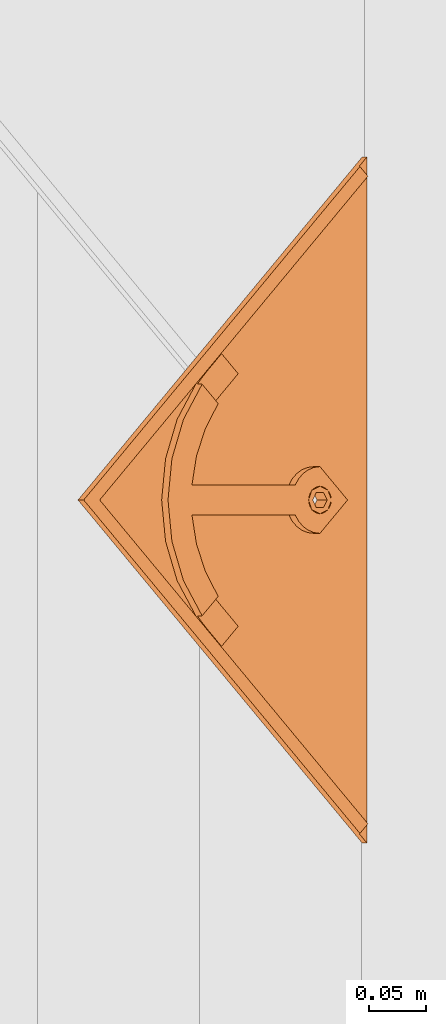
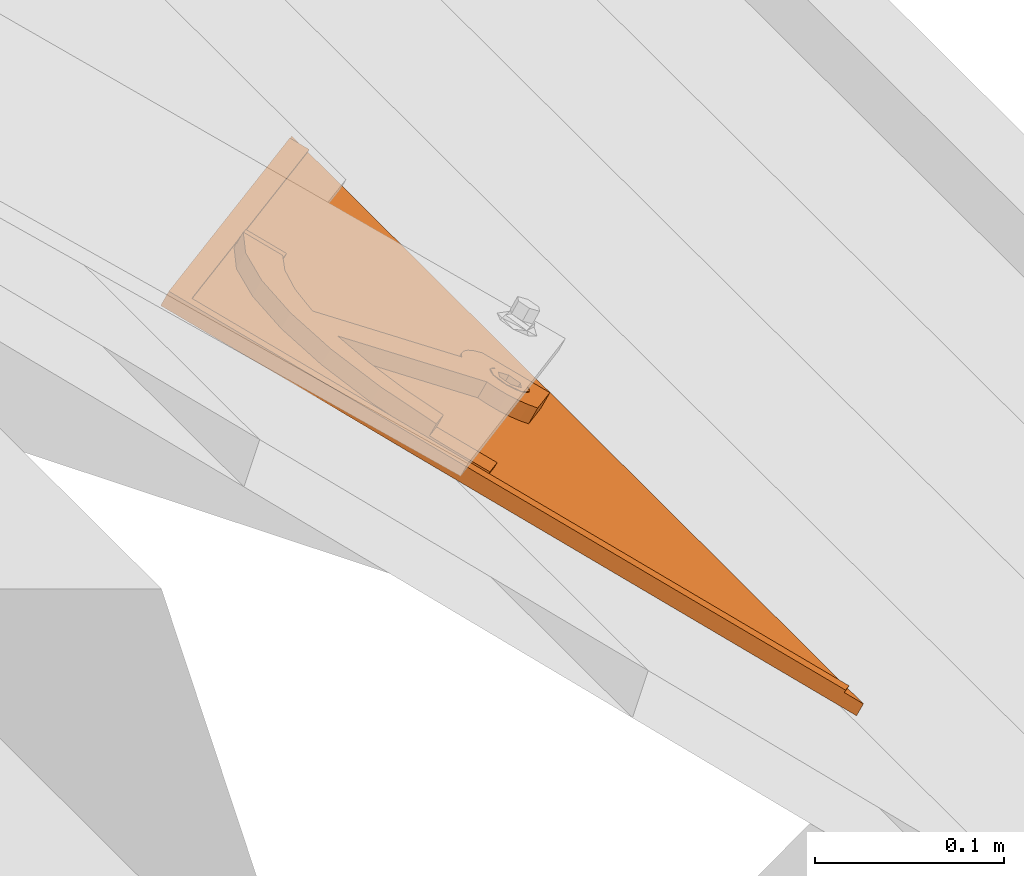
# One storey, part 132 of 151: 1 proxy.
"""IFC2X3 building model written with IfcOpenShell, lengths in millimetres."""

from ifc_helpers import new_model, entity, si_unit, converted_unit, derived_unit, direction, frame, origin, place, context, subcontext, project, spatial, faceted_brep, source, transform, mapped, material, material_list, type_object, type_shapes, element, save


model = new_model("IFC2X3")

# Units and contexts
model_context = context("Model", 3, precision=0.01, world=origin(), true_north=direction((6.12303176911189e-17, 1.0)))
body_context = subcontext(model_context, "Body", "Model", "MODEL_VIEW")
ifc_project = project(units=[si_unit("LENGTHUNIT", "METRE", prefix="MILLI"), si_unit("AREAUNIT", "SQUARE_METRE"), si_unit("VOLUMEUNIT", "CUBIC_METRE"), converted_unit("PLANEANGLEUNIT", "DEGREE", entity("IfcRatioMeasure", 0.0174532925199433), si_unit("PLANEANGLEUNIT", "RADIAN"), dimensions=[0, 0, 0, 0, 0, 0, 0]), si_unit("MASSUNIT", "GRAM", prefix="KILO"), derived_unit("MASSDENSITYUNIT", [(si_unit("MASSUNIT", "GRAM", prefix="KILO"), 1), (si_unit("LENGTHUNIT", "METRE"), -3)]), si_unit("TIMEUNIT", "SECOND"), si_unit("FREQUENCYUNIT", "HERTZ"), si_unit("THERMODYNAMICTEMPERATUREUNIT", "DEGREE_CELSIUS"), derived_unit("THERMALTRANSMITTANCEUNIT", [(si_unit("MASSUNIT", "GRAM", prefix="KILO"), 1), (si_unit("THERMODYNAMICTEMPERATUREUNIT", "KELVIN"), -1), (si_unit("TIMEUNIT", "SECOND"), -3)]), derived_unit("VOLUMETRICFLOWRATEUNIT", [(si_unit("LENGTHUNIT", "METRE"), 3), (si_unit("TIMEUNIT", "SECOND"), -1)]), si_unit("ELECTRICCURRENTUNIT", "AMPERE"), si_unit("ELECTRICVOLTAGEUNIT", "VOLT"), si_unit("POWERUNIT", "WATT"), si_unit("FORCEUNIT", "NEWTON", prefix="KILO"), si_unit("ILLUMINANCEUNIT", "LUX"), si_unit("LUMINOUSFLUXUNIT", "LUMEN"), si_unit("LUMINOUSINTENSITYUNIT", "CANDELA"), derived_unit("USERDEFINED", [(si_unit("MASSUNIT", "GRAM", prefix="KILO"), -1), (si_unit("LENGTHUNIT", "METRE"), -2), (si_unit("TIMEUNIT", "SECOND"), 3), (si_unit("LUMINOUSFLUXUNIT", "LUMEN"), 1)]), derived_unit("LINEARVELOCITYUNIT", [(si_unit("LENGTHUNIT", "METRE"), 1), (si_unit("TIMEUNIT", "SECOND"), -1)]), si_unit("PRESSUREUNIT", "PASCAL"), derived_unit("USERDEFINED", [(si_unit("LENGTHUNIT", "METRE"), -2), (si_unit("MASSUNIT", "GRAM", prefix="KILO"), 1), (si_unit("TIMEUNIT", "SECOND"), -2)])], contexts=[model_context])

# Site, building, storey
site_placement = place(None, origin())
site = spatial("IfcSite", under=ifc_project, at=site_placement, Name="Default", CompositionType="ELEMENT")
building_placement = place(site_placement, origin())
building = spatial("IfcBuilding", under=site, at=building_placement, CompositionType="ELEMENT")
storey_placement = place(building_placement, origin())
storey = spatial("IfcBuildingStorey", under=building, at=storey_placement, Name="Level 1", CompositionType="ELEMENT", Elevation=0.0)

# Proxy
ifc_material_1 = material(Name="Rubber - Sunstyle - Black")
ifc_material_2 = material(Name="Glass - Sunstyle - Tainted Black")
ifc_material_list_1 = material_list([ifc_material_1, ifc_material_2])
ifc_material_list_2 = material_list([ifc_material_1, ifc_material_2])
building_element_proxy_type = type_object("IfcBuildingElementProxyType", Name="Shingle Bottom Small - Black", PredefinedType="NOTDEFINED", material=ifc_material_list_2)
shared_shape = source(origin(), body_context, "Body", "Brep", [
    faceted_brep([(302.08842791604, 44.9093317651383, 22.0558382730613), (302.08842791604, 49.408700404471, 21.980485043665), (293.484723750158, 48.4726030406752, 21.9961623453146), (310.692132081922, 48.4726030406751, 21.9961623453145), (308.728656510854, 53.2419006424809, 21.9162884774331), (314.255903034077, 57.0751008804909, 21.8520919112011), (308.728656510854, 60.9083011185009, 21.7878953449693), (310.692132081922, 65.6775987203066, 21.7080214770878), (302.08842791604, 64.7415013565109, 21.7236987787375), (302.08842791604, 69.2408699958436, 21.6483455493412), (293.484723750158, 65.6775987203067, 21.708021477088), (295.448199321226, 60.908301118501, 21.7878953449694), (289.920952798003, 57.0751008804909, 21.8520919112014), (295.448199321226, 53.2419006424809, 21.9162884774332), (295.448199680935, 60.6403782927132, 5.79013870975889), (302.08842791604, 64.473578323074, 5.72594214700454), (295.448199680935, 52.9739782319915, 5.91853183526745), (302.08842791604, 49.1407782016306, 5.98272839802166), (308.728656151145, 52.9739782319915, 5.91853183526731), (308.728656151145, 60.6403782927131, 5.79013870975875), (293.484723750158, 48.2046804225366, 5.99840570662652), (302.08842791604, 44.6414091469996, 6.05808163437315), (289.920952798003, 56.8071782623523, 5.85433527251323), (293.484723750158, 65.4096761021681, 5.71026483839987), (302.08842791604, 68.972947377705, 5.65058891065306), (310.692132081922, 65.409676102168, 5.71026483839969), (314.255903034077, 56.8071782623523, 5.85433527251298), (310.692132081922, 48.2046804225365, 5.99840570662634)], [[[0, 1, 2]], [[1, 0, 3]], [[3, 4, 1]], [[4, 3, 5]], [[6, 4, 5]], [[5, 7, 6]], [[7, 8, 6]], [[8, 7, 9]], [[8, 9, 10]], [[10, 11, 8]], [[12, 11, 10]], [[2, 13, 12]], [[12, 13, 11]], [[13, 2, 1]], [[8, 11, 14, 15]], [[11, 13, 16, 14]], [[13, 1, 17, 16]], [[1, 4, 18, 17]], [[4, 6, 19, 18]], [[6, 8, 15, 19]], [[20, 17, 21]], [[17, 20, 16]], [[22, 16, 20]], [[14, 16, 22]], [[23, 14, 22]], [[15, 14, 23]], [[23, 24, 15]], [[24, 25, 15]], [[19, 15, 25]], [[19, 25, 26]], [[26, 18, 19]], [[26, 27, 18]], [[17, 18, 27]], [[27, 21, 17]], [[24, 23, 10, 9]], [[10, 23, 22, 12]], [[20, 21, 0, 2]], [[20, 2, 12, 22]], [[21, 27, 3, 0]], [[3, 27, 26, 5]], [[25, 24, 9, 7]], [[25, 7, 5, 26]]]),
    faceted_brep([(587.35835892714, 0.0, 12.5593198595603), (595.843045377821, 8.4846864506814, 12.4172224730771), (595.843045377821, 8.50980419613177, 13.9170121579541), (587.35835892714, 0.0251177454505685, 14.0591095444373), (302.088750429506, 285.189618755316, 7.7831033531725), (16.8191419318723, 0.0, 12.5593198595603), (8.33445548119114, 8.48468645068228, 12.4172224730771), (302.088750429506, 302.156612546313, 7.49894842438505), (302.088750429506, 302.181730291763, 8.9987381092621), (8.33445548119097, 8.50980419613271, 13.9170121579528), (16.8191419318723, 0.0251177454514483, 14.0591095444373), (302.088750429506, 285.214736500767, 9.28289303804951)], [[[0, 1, 2, 3]], [[1, 0, 4, 5, 6, 7]], [[2, 1, 7, 8]], [[3, 2, 8, 9, 10, 11]], [[0, 3, 11, 4]], [[5, 10, 9, 6]], [[8, 7, 6, 9]], [[4, 11, 10, 5]]]),
    faceted_brep([(302.088750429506, 302.156612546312, 7.49894842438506), (305.194256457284, 68.3255429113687, 11.4150370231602), (308.088427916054, 67.1269059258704, 11.4351112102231), (302.088427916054, 68.7343756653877, 11.4081900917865), (310.573709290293, 65.2201498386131, 11.4670446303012), (298.982599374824, 68.3255429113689, 11.4150370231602), (296.088427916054, 67.1269059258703, 11.4351112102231), (293.603146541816, 65.2201498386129, 11.4670446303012), (312.480732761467, 62.7352169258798, 11.5086610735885), (604.177500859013, 0.152567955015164, 12.5567647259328), (291.696123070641, 62.7352169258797, 11.5086610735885), (0.0, 0.152567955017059, 12.5567647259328), (290.497318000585, 59.8414512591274, 11.5571244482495), (290.088427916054, 56.7360581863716, 11.6091320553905), (290.497318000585, 53.6306651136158, 11.6611396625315), (291.696123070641, 50.7368994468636, 11.7096030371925), (293.603146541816, 48.2519665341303, 11.7512194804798), (296.088427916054, 46.3452104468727, 11.7831529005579), (298.982599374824, 45.1465734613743, 11.8032270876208), (302.088427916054, 44.7377407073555, 11.8100740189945), (313.679537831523, 59.8414512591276, 11.5571244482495), (314.088427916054, 56.7360581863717, 11.6091320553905), (313.679537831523, 53.6306651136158, 11.6611396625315), (312.480732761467, 50.7368994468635, 11.7096030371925), (310.573709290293, 48.2519665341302, 11.7512194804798), (308.088427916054, 46.3452104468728, 11.7831529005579), (305.194256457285, 45.1465734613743, 11.8032270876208), (0.0, 0.0269792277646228, 5.0578163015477), (290.088427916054, 56.6104694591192, 4.11018363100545), (290.497318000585, 53.5050763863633, 4.16219123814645), (290.497318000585, 59.7158625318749, 4.05817602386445), (291.696123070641, 50.6113107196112, 4.21065461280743), (291.696123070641, 62.6096281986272, 4.00971264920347), (302.088750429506, 302.031023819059, 0.0), (293.603146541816, 48.1263778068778, 4.25227105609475), (296.088427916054, 46.2196217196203, 4.28420447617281), (298.982599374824, 45.0209847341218, 4.30427866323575), (302.088427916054, 44.612151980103, 4.31112559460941), (604.177500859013, 0.0269792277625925, 5.05781630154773), (293.603146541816, 65.0945611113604, 3.96809620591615), (296.088427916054, 67.0013171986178, 3.93616278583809), (298.982599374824, 68.1999541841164, 3.91608859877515), (302.088427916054, 68.6087869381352, 3.90924166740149), (305.194256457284, 68.1999541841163, 3.91608859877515), (308.088427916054, 67.0013171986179, 3.93616278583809), (310.573709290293, 65.0945611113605, 3.96809620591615), (312.480732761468, 62.6096281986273, 4.00971264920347), (305.194256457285, 45.0209847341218, 4.30427866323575), (308.088427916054, 46.2196217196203, 4.28420447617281), (313.679537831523, 59.7158625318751, 4.05817602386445), (314.088427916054, 56.6104694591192, 4.11018363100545), (313.679537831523, 53.5050763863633, 4.16219123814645), (312.480732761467, 50.611310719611, 4.21065461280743), (310.573709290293, 48.1263778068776, 4.25227105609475)], [[[0, 1, 2]], [[1, 0, 3]], [[0, 2, 4]], [[5, 3, 0]], [[6, 5, 0]], [[0, 7, 6]], [[8, 0, 4]], [[0, 8, 9]], [[7, 0, 10]], [[0, 11, 10]], [[12, 10, 11]], [[11, 13, 12]], [[13, 11, 14]], [[15, 14, 11]], [[11, 16, 15]], [[17, 16, 11]], [[17, 11, 18]], [[19, 18, 11]], [[19, 11, 9]], [[9, 8, 20]], [[20, 21, 9]], [[21, 22, 9]], [[22, 23, 9]], [[9, 23, 24]], [[24, 25, 9]], [[25, 26, 9]], [[9, 26, 19]], [[27, 28, 29]], [[28, 27, 30]], [[27, 29, 31]], [[32, 30, 27]], [[32, 27, 33]], [[31, 34, 27]], [[34, 35, 27]], [[35, 36, 27]], [[36, 37, 27]], [[27, 37, 38]], [[33, 39, 32]], [[40, 39, 33]], [[41, 40, 33]], [[42, 41, 33]], [[33, 43, 42]], [[43, 33, 44]], [[45, 44, 33]], [[33, 46, 45]], [[46, 33, 38]], [[38, 37, 47]], [[47, 48, 38]], [[49, 46, 38]], [[38, 50, 49]], [[50, 38, 51]], [[52, 51, 38]], [[53, 52, 38]], [[53, 38, 48]], [[11, 0, 33, 27]], [[0, 9, 38, 33]], [[13, 28, 30, 12]], [[12, 30, 32, 10]], [[6, 7, 39, 40]], [[39, 7, 10, 32]], [[5, 6, 40, 41]], [[5, 41, 42, 3]], [[3, 42, 43, 1]], [[1, 43, 44, 2]], [[8, 4, 45, 46]], [[45, 4, 2, 44]], [[20, 8, 46, 49]], [[20, 49, 50, 21]], [[21, 50, 51, 22]], [[22, 51, 52, 23]], [[25, 24, 53, 48]], [[53, 24, 23, 52]], [[26, 25, 48, 47]], [[26, 47, 37, 19]], [[19, 37, 36, 18]], [[18, 36, 35, 17]], [[15, 16, 34, 31]], [[34, 16, 17, 35]], [[14, 15, 31, 29]], [[14, 29, 28, 13]], [[9, 11, 27, 38]]]),
    faceted_brep([(190.819384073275, 138.646056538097, 12.7376939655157), (217.144031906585, 164.967013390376, 12.2968834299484), (200.060856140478, 182.04779392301, 12.0108228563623), (193.80845410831, 176.686146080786, 12.100617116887), (187.837458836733, 171.012871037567, 12.1956303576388), (173.141714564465, 156.321247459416, 12.4416784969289), (431.035141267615, 156.321247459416, 12.4416784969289), (416.339396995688, 171.012871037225, 12.1956303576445), (410.36840172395, 176.686146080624, 12.1006171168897), (404.115999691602, 182.047793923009, 12.0108228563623), (387.031626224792, 164.968210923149, 12.2968633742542), (413.357471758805, 138.646056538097, 12.7376939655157), (296.088427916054, 67.294357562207, 21.4337091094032), (288.788427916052, 83.1076295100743, 21.1688761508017), (283.384321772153, 79.569581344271, 21.2281296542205), (293.603146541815, 65.3876014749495, 21.4656425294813), (298.982599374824, 68.4929945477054, 21.4136349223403), (302.088427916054, 68.9018273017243, 21.4067879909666), (315.388427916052, 83.107629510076, 21.1688761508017), (305.194256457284, 68.4929945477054, 21.4136349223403), (308.088427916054, 67.2943575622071, 21.4337091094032), (320.792534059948, 79.5695813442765, 21.2281296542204), (310.573709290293, 65.3876014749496, 21.4656425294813), (325.293078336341, 74.9365758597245, 21.3057209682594), (312.480732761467, 62.9026685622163, 21.5072589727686), (328.672647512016, 69.4324252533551, 21.3979017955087), (313.679537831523, 60.0089028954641, 21.5557223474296), (330.767980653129, 63.323025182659, 21.500219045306), (314.088427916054, 56.9035098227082, 21.6077299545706), (331.477855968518, 56.9035098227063, 21.6077299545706), (313.679537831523, 53.7981167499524, 21.6597375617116), (312.480732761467, 50.9043510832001, 21.7082009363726), (310.573709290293, 48.4194181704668, 21.7498173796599), (302.08842791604, 27.5182024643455, 22.0998607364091), (308.088427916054, 46.5126620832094, 21.7817507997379), (305.194256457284, 45.314025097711, 21.8018249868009), (302.088427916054, 44.9051923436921, 21.8086719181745), (298.982599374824, 45.314025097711, 21.8018249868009), (296.088427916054, 46.5126620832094, 21.7817507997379), (293.603146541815, 48.4194181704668, 21.7498173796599), (272.69899986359, 56.903509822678, 21.6077299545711), (291.696123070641, 50.9043510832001, 21.7082009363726), (290.497318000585, 53.7981167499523, 21.6597375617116), (290.088427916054, 56.9035098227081, 21.6077299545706), (273.408875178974, 63.3230251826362, 21.5002190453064), (290.497318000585, 60.008902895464, 21.5557223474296), (275.504208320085, 69.4324252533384, 21.397901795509), (291.696123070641, 62.9026685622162, 21.5072589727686), (278.883777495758, 74.9365758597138, 21.3057209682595), (288.788427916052, 192.984512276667, 19.3287117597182), (315.388427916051, 192.984512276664, 19.3287117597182), (302.088427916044, 218.456125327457, 18.9021256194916), (338.579268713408, 214.282159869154, 18.9720291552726), (340.858170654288, 188.169632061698, 19.4093490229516), (373.184513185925, 201.975945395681, 19.1781276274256), (365.012761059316, 178.765998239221, 19.5668364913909), (404.115999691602, 182.173382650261, 19.5097712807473), (387.032823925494, 165.092602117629, 19.7958318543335), (265.59758711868, 214.28215986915, 18.9720291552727), (263.318685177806, 188.169632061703, 19.4093490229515), (230.992342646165, 201.975945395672, 19.1781276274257), (239.164094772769, 178.765998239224, 19.5668364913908), (200.06085614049, 182.173382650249, 19.5097712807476), (217.144031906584, 165.092602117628, 19.7958318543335), (302.08842791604, 27.3507508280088, 12.1012628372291), (302.088427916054, 44.7377407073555, 11.8100740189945), (305.194256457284, 45.1465734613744, 11.8032270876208), (298.982599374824, 45.1465734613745, 11.8032270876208), (308.088427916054, 46.3452104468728, 11.7831529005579), (310.573709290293, 48.2519665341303, 11.7512194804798), (331.477855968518, 56.7360581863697, 11.6091320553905), (296.088427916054, 46.3452104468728, 11.7831529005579), (293.603146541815, 48.2519665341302, 11.7512194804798), (272.69899986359, 56.7360581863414, 11.609132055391), (291.696123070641, 50.7368994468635, 11.7096030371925), (290.497318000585, 53.6306651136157, 11.6611396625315), (290.088427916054, 56.7360581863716, 11.6091320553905), (273.408875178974, 63.1555735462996, 11.5016211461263), (290.497318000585, 59.8414512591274, 11.5571244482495), (275.504208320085, 69.2649736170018, 11.3993038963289), (291.696123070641, 62.7352169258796, 11.5086610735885), (278.883777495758, 74.7691242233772, 11.3071230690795), (293.603146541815, 65.2201498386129, 11.4670446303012), (283.384321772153, 79.4021297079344, 11.2295317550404), (296.088427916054, 67.1269059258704, 11.4351112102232), (288.788427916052, 82.9401778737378, 11.1702782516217), (298.982599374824, 68.3255429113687, 11.4150370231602), (302.088427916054, 68.7343756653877, 11.4081900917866), (315.388427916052, 82.9401778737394, 11.1702782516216), (288.788427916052, 192.81706064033, 9.33011386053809), (315.388427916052, 192.817060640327, 9.33011386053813), (302.088427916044, 218.28867369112, 8.90352772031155), (265.59758711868, 214.114708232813, 8.97343125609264), (263.318685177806, 188.002180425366, 9.41075112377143), (230.992342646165, 201.808493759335, 9.17952972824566), (239.164094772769, 178.598546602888, 9.56823859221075), (200.06085614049, 182.005931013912, 9.51117338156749), (217.145229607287, 164.926348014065, 9.79721389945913), (193.80845410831, 176.644283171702, 9.60096764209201), (187.837458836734, 170.971008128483, 9.69598088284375), (190.819384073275, 138.604193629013, 10.2380444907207), (173.141714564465, 156.279384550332, 9.94202902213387), (338.579268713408, 214.114708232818, 8.97343125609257), (340.858170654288, 188.002180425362, 9.41075112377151), (373.184513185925, 201.808493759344, 9.17952972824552), (365.012761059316, 178.598546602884, 9.5682385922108), (404.115999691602, 182.005931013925, 9.51117338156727), (387.032823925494, 164.925150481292, 9.79723395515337), (410.36840172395, 176.64428317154, 9.60096764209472), (416.339396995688, 170.971008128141, 9.69598088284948), (413.357471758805, 138.604193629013, 10.2380444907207), (431.035141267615, 156.279384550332, 9.94202902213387), (305.194256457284, 68.3255429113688, 11.4150370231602), (308.088427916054, 67.1269059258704, 11.4351112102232), (320.792534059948, 79.4021297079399, 11.2295317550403), (310.573709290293, 65.220149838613, 11.4670446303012), (325.293078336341, 74.7691242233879, 11.3071230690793), (312.480732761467, 62.7352169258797, 11.5086610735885), (328.672647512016, 69.2649736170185, 11.3993038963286), (313.679537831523, 59.8414512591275, 11.5571244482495), (330.767980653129, 63.1555735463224, 11.5016211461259), (314.088427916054, 56.7360581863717, 11.6091320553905), (312.480732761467, 50.7368994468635, 11.7096030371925), (313.679537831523, 53.6306651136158, 11.6611396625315)], [[[0, 1, 2, 3, 4, 5]], [[6, 7, 8, 9, 10, 11]], [[12, 13, 14]], [[12, 14, 15]], [[16, 13, 12]], [[17, 13, 16]], [[18, 13, 17]], [[17, 19, 18]], [[19, 20, 18]], [[20, 21, 18]], [[21, 20, 22]], [[21, 22, 23]], [[24, 23, 22]], [[23, 24, 25]], [[24, 26, 25]], [[27, 25, 26]], [[26, 28, 27]], [[29, 27, 28]], [[28, 30, 29]], [[30, 31, 29]], [[29, 31, 32]], [[32, 33, 29]], [[32, 34, 33]], [[35, 33, 34]], [[36, 33, 35]], [[33, 36, 37]], [[38, 33, 37]], [[38, 39, 33]], [[40, 33, 39]], [[41, 40, 39]], [[41, 42, 40]], [[42, 43, 40]], [[43, 44, 40]], [[45, 44, 43]], [[45, 46, 44]], [[45, 47, 46]], [[48, 46, 47]], [[48, 47, 15]], [[48, 15, 14]], [[18, 49, 13]], [[50, 49, 18]], [[51, 49, 50]], [[50, 52, 51]], [[50, 53, 52]], [[52, 53, 54]], [[53, 55, 54]], [[56, 54, 55]], [[57, 56, 55]], [[58, 49, 51]], [[49, 58, 59]], [[60, 59, 58]], [[60, 61, 59]], [[61, 60, 62]], [[62, 63, 61]], [[64, 65, 66]], [[65, 64, 67]], [[64, 66, 68]], [[68, 69, 64]], [[64, 69, 70]], [[71, 67, 64]], [[71, 64, 72]], [[72, 64, 73]], [[73, 74, 72]], [[74, 73, 75]], [[75, 73, 76]], [[77, 76, 73]], [[76, 77, 78]], [[78, 77, 79]], [[80, 78, 79]], [[81, 80, 79]], [[82, 80, 81]], [[83, 82, 81]], [[83, 84, 82]], [[85, 84, 83]], [[85, 86, 84]], [[87, 86, 85]], [[88, 87, 85]], [[89, 88, 85]], [[88, 89, 90]], [[89, 91, 90]], [[91, 89, 92]], [[93, 92, 89]], [[92, 93, 94]], [[95, 94, 93]], [[96, 94, 95]], [[95, 97, 96]], [[97, 98, 96]], [[98, 97, 99]], [[97, 100, 99]], [[99, 100, 101]], [[90, 91, 102]], [[103, 90, 102]], [[103, 102, 104]], [[105, 103, 104]], [[106, 105, 104]], [[107, 105, 106]], [[106, 108, 107]], [[109, 107, 108]], [[110, 107, 109]], [[109, 111, 110]], [[112, 87, 88]], [[113, 112, 88]], [[114, 113, 88]], [[115, 113, 114]], [[115, 114, 116]], [[116, 117, 115]], [[117, 116, 118]], [[118, 119, 117]], [[120, 119, 118]], [[121, 120, 70]], [[120, 121, 119]], [[70, 69, 122]], [[122, 123, 70]], [[123, 121, 70]], [[13, 49, 89, 85]], [[14, 13, 85, 83]], [[48, 14, 83, 81]], [[81, 79, 46, 48]], [[44, 46, 79, 77]], [[40, 44, 77, 73]], [[33, 40, 73, 64]], [[0, 5, 101, 100]], [[29, 33, 64, 70]], [[6, 11, 110, 111]], [[27, 29, 70, 120]], [[25, 27, 120, 118]], [[118, 116, 23, 25]], [[21, 23, 116, 114]], [[18, 21, 114, 88]], [[50, 18, 88, 90]], [[9, 106, 104, 54, 56]], [[52, 54, 104, 102]], [[51, 52, 102, 91]], [[58, 51, 91, 92]], [[94, 96, 2, 62, 60]], [[60, 58, 92, 94]], [[43, 76, 78, 45]], [[45, 78, 80, 47]], [[12, 15, 82, 84]], [[80, 82, 15, 47]], [[16, 12, 84, 86]], [[87, 17, 16, 86]], [[19, 112, 113, 20]], [[20, 113, 115, 22]], [[26, 24, 117, 119]], [[115, 117, 24, 22]], [[28, 26, 119, 121]], [[19, 17, 87, 112]], [[28, 121, 123, 30]], [[30, 123, 122, 31]], [[34, 32, 69, 68]], [[122, 69, 32, 31]], [[35, 34, 68, 66]], [[65, 36, 35, 66]], [[37, 67, 71, 38]], [[38, 71, 72, 39]], [[42, 41, 74, 75]], [[72, 74, 41, 39]], [[43, 42, 75, 76]], [[37, 36, 65, 67]], [[7, 6, 111, 109]], [[7, 109, 108, 8]], [[108, 106, 9, 8]], [[11, 10, 107, 110]], [[1, 0, 100, 97]], [[2, 96, 98, 3]], [[98, 99, 4, 3]], [[5, 4, 99, 101]], [[63, 62, 2, 1]], [[56, 57, 10]], [[10, 9, 56]], [[1, 95, 61, 63]], [[1, 97, 95]], [[93, 89, 49, 59]], [[95, 93, 59, 61]], [[90, 103, 53, 50]], [[103, 105, 55, 53]], [[10, 57, 55]], [[107, 10, 105]], [[55, 105, 10]]]),
])
type_shapes(building_element_proxy_type, [shared_shape])
proxy_placement = place(storey_placement, frame((4560.90421878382, -3163.61023624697, 520.069325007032), z_axis=(0.573576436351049, 0.0, 0.81915204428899), x_axis=(0.0, 1.0, 0.0)))
element("IfcBuildingElementProxy", 1, at=proxy_placement, inside=storey, type_object=building_element_proxy_type, material=ifc_material_list_1, Name="Roofing_Panels_SunStyle_Tile_Shingle-Bottom-Small:Shingle Bottom Small - Black", ObjectType="Roofing_Panels_SunStyle_Tile_Shingle-Bottom-Small:Shingle Bottom Small - Black", context=body_context, shape_type="MappedRepresentation", body=[
    mapped(shared_shape, transform((0.0, 0.0, 0.0), scale=1.0)),
])

save(model, "model.ifc")
